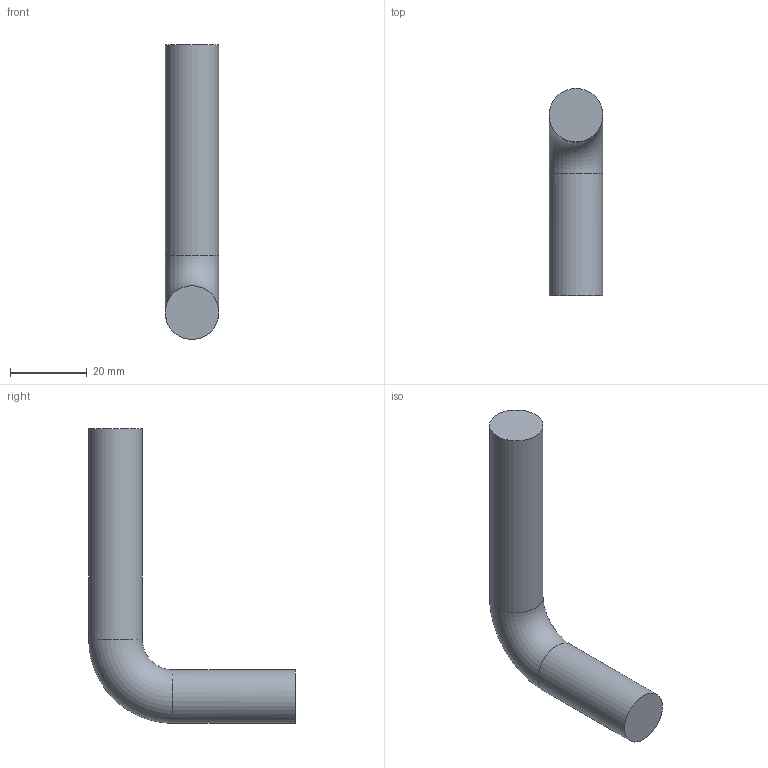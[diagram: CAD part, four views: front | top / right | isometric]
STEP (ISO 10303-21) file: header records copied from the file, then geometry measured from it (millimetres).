
FILE_DESCRIPTION(/* description */ (''),/* implementation_level */ '2;1');
FILE_NAME(/* name */ 'Pos100-as 12 mm-S235JRG2-6st',/* time_stamp */ '2024-08-06T13:49:49+02:00',/* author */ (''),/* organization */ (''),/* preprocessor_version */ 'ST-DEVELOPER v16.5',/* originating_system */ 'HiCAD 2024 2901.2 Build 361',/* authorisation */ '');
FILE_SCHEMA (('AUTOMOTIVE_DESIGN { 1 0 10303 214 1 1 1 1 }'));
Length unit declared in the file: millimetre
Products named in the file (3): Pos100-as 12 mm-S235JRG2-6st
Assembly tree (2 placements, depth 2):
  Pos100-as 12 mm-S235JRG2-6st
    (unnamed)
    (unnamed)
Bounding box: 14 x 54 x 77 mm (x, y, z)
Volume: 17019.7 mm3; surface area: 5170.6 mm2
Topology: 1 solids, 1 shells, 5 faces, 12 edges, 9 vertices
Faces by surface type: cylinder 2, plane 2, torus 1
Full cylindrical faces by diameter (mm): 14 x2
Entity records: 271 total; most frequent: CARTESIAN_POINT 38, DIRECTION 28, PRESENTATION_STYLE_ASSIGNMENT 15, COLOUR_RGB 15, DRAUGHTING_PRE_DEFINED_CURVE_FONT 14, CURVE_STYLE 14, OVER_RIDING_STYLED_ITEM 14, ORIENTED_EDGE 14
